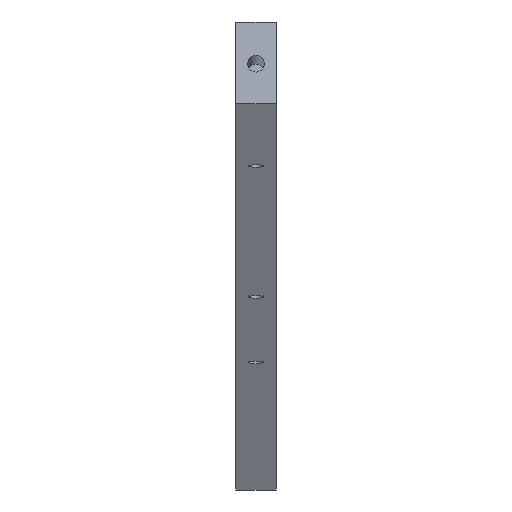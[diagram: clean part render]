
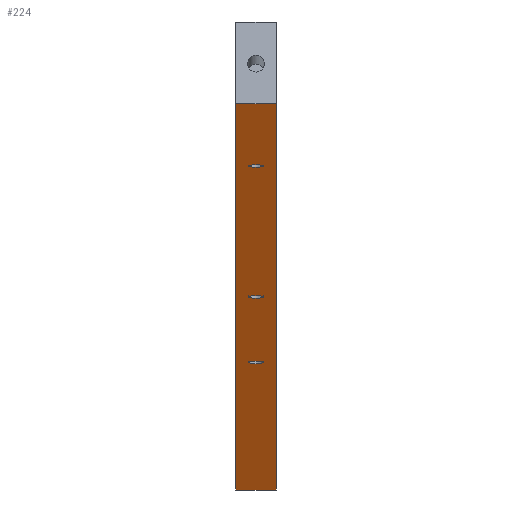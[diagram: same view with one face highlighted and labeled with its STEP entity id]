
A CAD part, top view. The second image highlights one B-rep face of the part: STEP entity #224.
In plain terms, the highlighted planar face has unit normal (0, -0.985, 0.174).
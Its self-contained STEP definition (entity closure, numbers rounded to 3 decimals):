
#37=CARTESIAN_POINT('',(2568.,-74.186,593.695));
#38=VERTEX_POINT('',#37);
#45=CARTESIAN_POINT('',(2556.0,-74.186,593.695));
#46=VERTEX_POINT('',#45);
#47=CARTESIAN_POINT('',(2556.0,-74.186,593.695));
#48=DIRECTION('',(1.0,0.0,0.0));
#49=VECTOR('',#48,1.);
#50=LINE('',#47,#49);
#51=EDGE_CURVE('',#46,#38,#50,.T.);
#86=CARTESIAN_POINT('',(2568.,38.512,1232.836));
#87=VERTEX_POINT('',#86);
#94=CARTESIAN_POINT('',(2568.0,-74.186,593.695));
#95=DIRECTION('',(0.,0.174,0.985));
#96=VECTOR('',#95,1.);
#97=LINE('',#94,#96);
#98=EDGE_CURVE('',#38,#87,#97,.T.);
#117=CARTESIAN_POINT('',(2556.0,38.512,1232.836));
#118=VERTEX_POINT('',#117);
#125=CARTESIAN_POINT('',(2568.0,38.512,1232.836));
#126=DIRECTION('',(-1.0,0.,0.));
#127=VECTOR('',#126,1.);
#128=LINE('',#125,#127);
#129=EDGE_CURVE('',#87,#118,#128,.T.);
#158=CARTESIAN_POINT('',(2556.0,38.512,1232.836));
#159=DIRECTION('',(0.,-0.174,-0.985));
#160=VECTOR('',#159,1.);
#161=LINE('',#158,#160);
#162=EDGE_CURVE('',#118,#46,#161,.T.);
#180=CARTESIAN_POINT('',(2556.0,-74.186,593.695));
#181=DIRECTION('',(0.0,-0.985,0.174));
#182=DIRECTION('',(1.0,0.0,0.0));
#183=AXIS2_PLACEMENT_3D('',#180,#181,#182);
#184=PLANE('',#183);
#185=ORIENTED_EDGE('',*,*,#51,.T.);
#186=ORIENTED_EDGE('',*,*,#98,.T.);
#187=ORIENTED_EDGE('',*,*,#129,.T.);
#188=ORIENTED_EDGE('',*,*,#162,.T.);
#189=EDGE_LOOP('',(#185,#186,#187,#188));
#190=FACE_OUTER_BOUND('',#189,.T.);
#191=CARTESIAN_POINT('',(2564.1,-36.938,804.937));
#192=VERTEX_POINT('',#191);
#193=CARTESIAN_POINT('',(2562.0,-36.938,804.937));
#194=DIRECTION('',(0.0,-0.985,0.174));
#195=DIRECTION('',(1.0,0.0,0.0));
#196=AXIS2_PLACEMENT_3D('',#193,#194,#195);
#197=CIRCLE('',#196,2.1);
#198=EDGE_CURVE('',#192,#192,#197,.T.);
#199=ORIENTED_EDGE('',*,*,#198,.F.);
#200=EDGE_LOOP('',(#199));
#201=FACE_BOUND('',#200,.T.);
#202=CARTESIAN_POINT('',(2564.1,-17.837,913.266));
#203=VERTEX_POINT('',#202);
#204=CARTESIAN_POINT('',(2562.0,-17.837,913.266));
#205=DIRECTION('',(0.0,-0.985,0.174));
#206=DIRECTION('',(1.0,0.0,0.0));
#207=AXIS2_PLACEMENT_3D('',#204,#205,#206);
#208=CIRCLE('',#207,2.1);
#209=EDGE_CURVE('',#203,#203,#208,.T.);
#210=ORIENTED_EDGE('',*,*,#209,.F.);
#211=EDGE_LOOP('',(#210));
#212=FACE_BOUND('',#211,.T.);
#213=CARTESIAN_POINT('',(2564.1,20.366,1129.923));
#214=VERTEX_POINT('',#213);
#215=CARTESIAN_POINT('',(2562.0,20.366,1129.923));
#216=DIRECTION('',(0.0,-0.985,0.174));
#217=DIRECTION('',(1.0,0.0,0.0));
#218=AXIS2_PLACEMENT_3D('',#215,#216,#217);
#219=CIRCLE('',#218,2.1);
#220=EDGE_CURVE('',#214,#214,#219,.T.);
#221=ORIENTED_EDGE('',*,*,#220,.F.);
#222=EDGE_LOOP('',(#221));
#223=FACE_BOUND('',#222,.T.);
#224=ADVANCED_FACE('',(#190,#201,#212,#223),#184,.T.);
